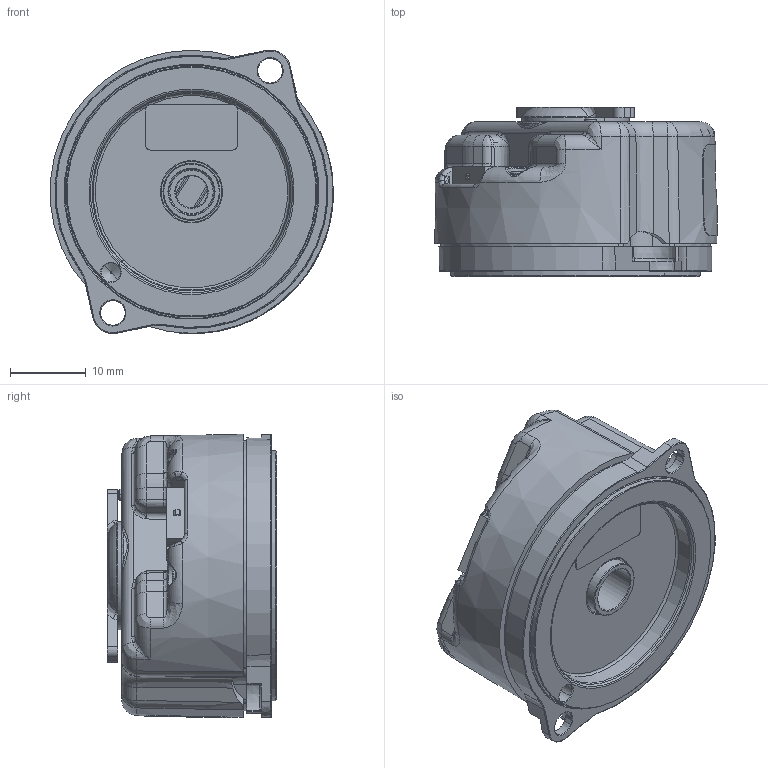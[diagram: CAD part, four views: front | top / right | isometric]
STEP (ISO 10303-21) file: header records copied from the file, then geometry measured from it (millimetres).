
FILE_DESCRIPTION((''),'2;1');
FILE_NAME('AM34Z0G_E2545059','2025-04-10T',('heinz.weber'),(''),'CREO PARAMETRIC BY PTC INC, 2018360','CREO PARAMETRIC BY PTC INC, 2018360','');
FILE_SCHEMA(('AUTOMOTIVE_DESIGN { 1 0 10303 214 1 1 1 1 }'));
Products named in the file (1): AM34Z0G_E2545059
Bounding box: 37.26 x 22.25 x 37.35 mm (x, y, z)
Volume: 17800.1 mm3; surface area: 6188.8 mm2
Topology: 1 solids, 1 shells, 2369 faces, 6554 edges, 4121 vertices
Faces by surface type: plane 1290, cylinder 566, torus 166, bspline 166, cone 105, sphere 76
Entity records: 107818 total; most frequent: CARTESIAN_POINT 33392, ORIENTED_EDGE 13108, DIRECTION 11548, EDGE_CURVE 6554, VERTEX_POINT 4121, VECTOR 4038, LINE 4038, AXIS2_PLACEMENT_3D 3755
